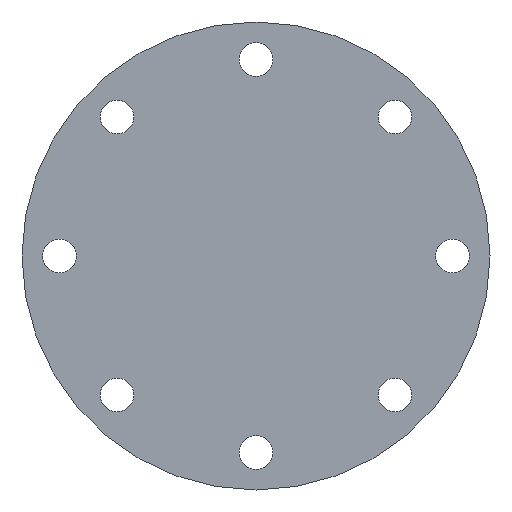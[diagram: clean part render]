
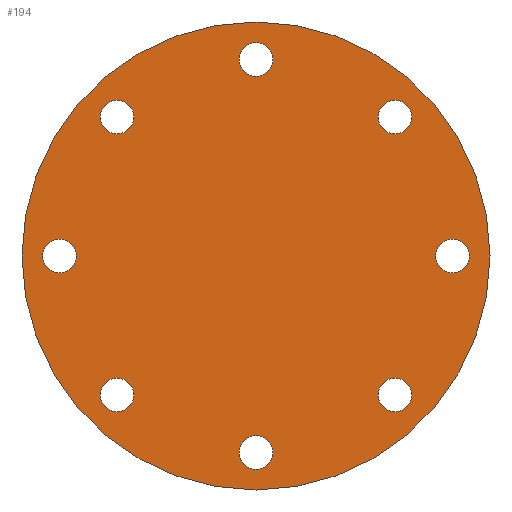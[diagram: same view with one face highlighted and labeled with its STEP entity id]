
A CAD part, front view. The second image highlights one B-rep face of the part: STEP entity #194.
In plain terms, the highlighted planar face has unit normal (0, -1, 0).
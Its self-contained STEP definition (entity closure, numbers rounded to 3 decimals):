
#13=PLANE($,#224);
#23=FACE_BOUND($,#67,.T.);
#24=FACE_BOUND($,#68,.T.);
#25=FACE_BOUND($,#69,.T.);
#26=FACE_BOUND($,#70,.T.);
#27=FACE_BOUND($,#71,.T.);
#28=FACE_BOUND($,#72,.T.);
#29=FACE_BOUND($,#73,.T.);
#30=FACE_BOUND($,#74,.T.);
#31=FACE_BOUND($,#75,.T.);
#67=EDGE_LOOP($,(#157));
#68=EDGE_LOOP($,(#158));
#69=EDGE_LOOP($,(#159));
#70=EDGE_LOOP($,(#160));
#71=EDGE_LOOP($,(#161));
#72=EDGE_LOOP($,(#162));
#73=EDGE_LOOP($,(#163));
#74=EDGE_LOOP($,(#164));
#75=EDGE_LOOP($,(#165));
#88=CIRCLE($,#202,9.);
#90=CIRCLE($,#205,9.);
#92=CIRCLE($,#208,9.);
#94=CIRCLE($,#211,9.);
#96=CIRCLE($,#214,9.);
#98=CIRCLE($,#217,9.);
#100=CIRCLE($,#220,9.);
#102=CIRCLE($,#223,9.);
#103=CIRCLE($,#225,125.);
#106=VERTEX_POINT($,#293);
#108=VERTEX_POINT($,#298);
#110=VERTEX_POINT($,#303);
#112=VERTEX_POINT($,#308);
#114=VERTEX_POINT($,#313);
#116=VERTEX_POINT($,#318);
#118=VERTEX_POINT($,#323);
#120=VERTEX_POINT($,#328);
#121=VERTEX_POINT($,#331);
#124=EDGE_CURVE($,#106,#106,#88,.T.);
#126=EDGE_CURVE($,#108,#108,#90,.T.);
#128=EDGE_CURVE($,#110,#110,#92,.T.);
#130=EDGE_CURVE($,#112,#112,#94,.T.);
#132=EDGE_CURVE($,#114,#114,#96,.T.);
#134=EDGE_CURVE($,#116,#116,#98,.T.);
#136=EDGE_CURVE($,#118,#118,#100,.T.);
#138=EDGE_CURVE($,#120,#120,#102,.T.);
#139=EDGE_CURVE($,#121,#121,#103,.T.);
#157=ORIENTED_EDGE($,*,*,#124,.T.);
#158=ORIENTED_EDGE($,*,*,#126,.T.);
#159=ORIENTED_EDGE($,*,*,#128,.T.);
#160=ORIENTED_EDGE($,*,*,#130,.T.);
#161=ORIENTED_EDGE($,*,*,#132,.T.);
#162=ORIENTED_EDGE($,*,*,#134,.T.);
#163=ORIENTED_EDGE($,*,*,#136,.T.);
#164=ORIENTED_EDGE($,*,*,#138,.T.);
#165=ORIENTED_EDGE($,*,*,#139,.F.);
#194=ADVANCED_FACE($,(#23,#24,#25,#26,#27,#28,#29,#30,#31),#13,.T.);
#202=AXIS2_PLACEMENT_3D($,#294,#235,#236);
#205=AXIS2_PLACEMENT_3D($,#299,#241,#242);
#208=AXIS2_PLACEMENT_3D($,#304,#247,#248);
#211=AXIS2_PLACEMENT_3D($,#309,#253,#254);
#214=AXIS2_PLACEMENT_3D($,#314,#259,#260);
#217=AXIS2_PLACEMENT_3D($,#319,#265,#266);
#220=AXIS2_PLACEMENT_3D($,#324,#271,#272);
#223=AXIS2_PLACEMENT_3D($,#329,#277,#278);
#224=AXIS2_PLACEMENT_3D($,#330,#279,#280);
#225=AXIS2_PLACEMENT_3D($,#332,#281,#282);
#235=DIRECTION('center_axis',(0.,1.,0.));
#236=DIRECTION('ref_axis',(0.707,0.,0.707));
#241=DIRECTION('center_axis',(0.,1.,0.));
#242=DIRECTION('ref_axis',(0.,0.,1.));
#247=DIRECTION('center_axis',(0.,1.,0.));
#248=DIRECTION('ref_axis',(-0.707,0.,0.707));
#253=DIRECTION('center_axis',(0.,1.,0.));
#254=DIRECTION('ref_axis',(-1.,0.,0.));
#259=DIRECTION('center_axis',(0.,1.,0.));
#260=DIRECTION('ref_axis',(-0.707,0.,-0.707));
#265=DIRECTION('center_axis',(0.,1.,0.));
#266=DIRECTION('ref_axis',(0.,0.,-1.));
#271=DIRECTION('center_axis',(0.,1.,0.));
#272=DIRECTION('ref_axis',(0.707,0.,-0.707));
#277=DIRECTION('center_axis',(0.,1.,0.));
#278=DIRECTION('ref_axis',(1.,0.,0.));
#279=DIRECTION('center_axis',(0.,-1.,0.));
#280=DIRECTION('ref_axis',(0.,0.,-1.));
#281=DIRECTION('center_axis',(0.,1.,0.));
#282=DIRECTION('ref_axis',(-1.,0.,0.));
#293=CARTESIAN_POINT('',(67.882,0.,67.882));
#294=CARTESIAN_POINT('Origin',(74.246,0.,74.246));
#298=CARTESIAN_POINT('',(0.,0.,96.));
#299=CARTESIAN_POINT('Origin',(0.,0.,105.));
#303=CARTESIAN_POINT('',(-67.882,0.,67.882));
#304=CARTESIAN_POINT('Origin',(-74.246,0.,74.246));
#308=CARTESIAN_POINT('',(-96.,0.,0.));
#309=CARTESIAN_POINT('Origin',(-105.,0.,0.));
#313=CARTESIAN_POINT('',(-67.882,0.,-67.882));
#314=CARTESIAN_POINT('Origin',(-74.246,0.,-74.246));
#318=CARTESIAN_POINT('',(0.,0.,-96.));
#319=CARTESIAN_POINT('Origin',(0.,0.,-105.));
#323=CARTESIAN_POINT('',(67.882,0.,-67.882));
#324=CARTESIAN_POINT('Origin',(74.246,0.,-74.246));
#328=CARTESIAN_POINT('',(96.,0.,0.));
#329=CARTESIAN_POINT('Origin',(105.,0.,0.));
#330=CARTESIAN_POINT('Origin',(-62.5,0.,0.));
#331=CARTESIAN_POINT('',(-125.,0.,0.));
#332=CARTESIAN_POINT('Origin',(0.,0.,0.));
